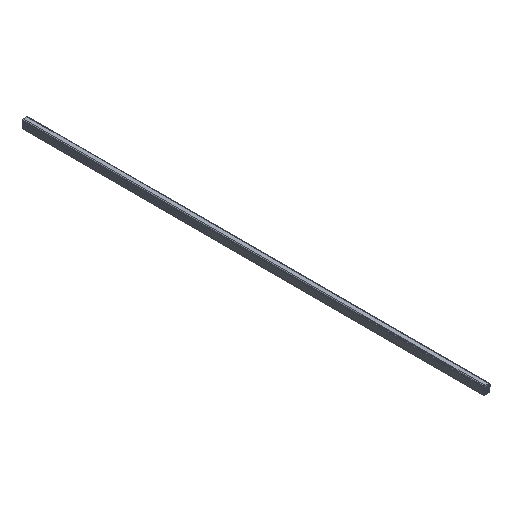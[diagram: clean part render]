
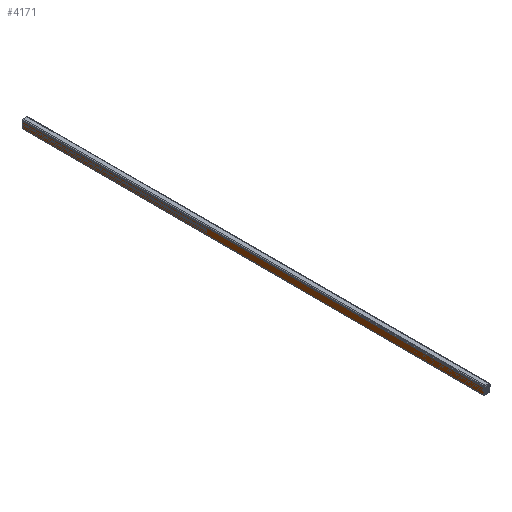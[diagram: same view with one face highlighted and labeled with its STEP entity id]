
A CAD part, isometric view. The second image highlights one B-rep face of the part: STEP entity #4171.
In plain terms, the highlighted planar face has unit normal (-1, 0, 0).
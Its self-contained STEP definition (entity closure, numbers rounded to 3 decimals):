
#800=ORIENTED_EDGE('',*,*,#1565,.F.);
#801=ORIENTED_EDGE('',*,*,#1564,.F.);
#802=ORIENTED_EDGE('',*,*,#1566,.T.);
#803=ORIENTED_EDGE('',*,*,#1567,.T.);
#1564=EDGE_CURVE('',#1873,#1872,#2204,.T.);
#1565=EDGE_CURVE('',#1872,#1874,#2205,.T.);
#1566=EDGE_CURVE('',#1873,#1875,#2206,.T.);
#1567=EDGE_CURVE('',#1875,#1874,#2207,.T.);
#1872=VERTEX_POINT('',#6238);
#1873=VERTEX_POINT('',#6240);
#1874=VERTEX_POINT('',#6244);
#1875=VERTEX_POINT('',#6246);
#2204=LINE('',#6241,#2536);
#2205=LINE('',#6243,#2537);
#2206=LINE('',#6245,#2538);
#2207=LINE('',#6247,#2539);
#2536=VECTOR('',#5322,1000.);
#2537=VECTOR('',#5325,1000.);
#2538=VECTOR('',#5326,1000.);
#2539=VECTOR('',#5327,1000.);
#2692=EDGE_LOOP('',(#800,#801,#802,#803));
#2846=FACE_BOUND('',#2692,.T.);
#2940=PLANE('',#4450);
#4171=ADVANCED_FACE('',(#2846),#2940,.T.);
#4450=AXIS2_PLACEMENT_3D('',#6242,#5323,#5324);
#5322=DIRECTION('',(0.,1.,0.));
#5323=DIRECTION('',(-1.,0.,0.));
#5324=DIRECTION('',(0.,0.,1.));
#5325=DIRECTION('',(0.,0.,1.));
#5326=DIRECTION('',(0.,0.,1.));
#5327=DIRECTION('',(0.,1.,0.));
#6238=CARTESIAN_POINT('',(-27.,2000.,-55.011));
#6240=CARTESIAN_POINT('',(-27.,-2000.,-55.011));
#6241=CARTESIAN_POINT('',(-27.,-2000.,-55.011));
#6242=CARTESIAN_POINT('',(-27.,-2000.,0.238));
#6243=CARTESIAN_POINT('',(-27.,2000.,0.238));
#6244=CARTESIAN_POINT('',(-27.,2000.,0.238));
#6245=CARTESIAN_POINT('',(-27.,-2000.,-19.391));
#6246=CARTESIAN_POINT('',(-27.,-2000.,0.238));
#6247=CARTESIAN_POINT('',(-27.,-2000.,0.238));
